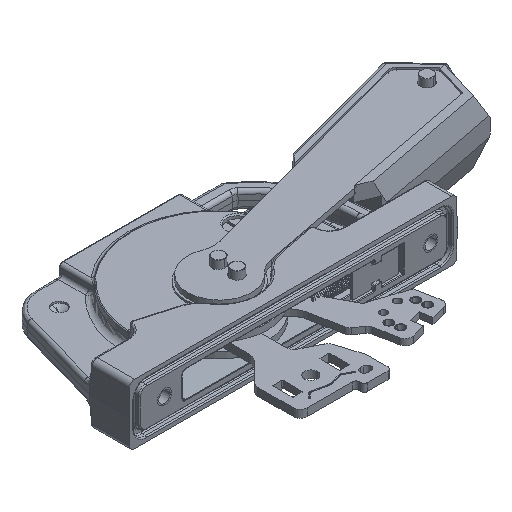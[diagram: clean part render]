
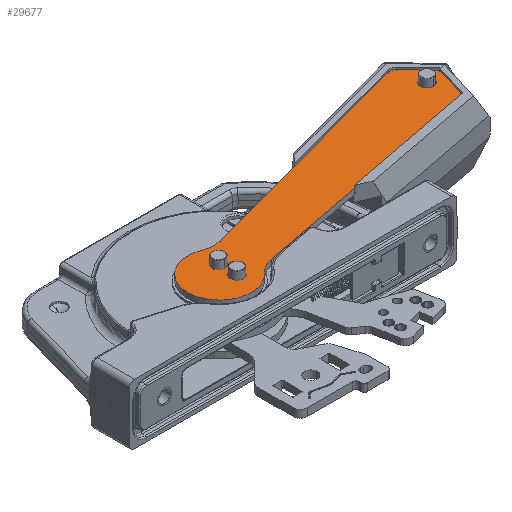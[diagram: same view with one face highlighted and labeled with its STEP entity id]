
A CAD part, isometric view. The second image highlights one B-rep face of the part: STEP entity #29677.
In plain terms, the highlighted planar face has unit normal (0, 0, 1) as drawn and (0, 1, 0) by its records, which use the part's own axes.
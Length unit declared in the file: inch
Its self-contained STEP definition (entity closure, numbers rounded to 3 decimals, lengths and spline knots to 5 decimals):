
#29274=CARTESIAN_POINT('',(4.875,0.049,0.));
#29275=DIRECTION('',(0.,-1.,0.));
#29276=DIRECTION('',(1.,0.,0.));
#29277=AXIS2_PLACEMENT_3D('',#29274,#29275,#29276);
#29282=CARTESIAN_POINT('',(4.875,0.049,0.));
#29283=DIRECTION('',(0.,-1.,0.));
#29284=DIRECTION('',(-1.,0.,0.));
#29285=AXIS2_PLACEMENT_3D('',#29282,#29283,#29284);
#29290=CARTESIAN_POINT('',(5.04456,0.049,0.));
#29291=DIRECTION('',(0.,1.,0.));
#29292=DIRECTION('',(0.866,0.,0.5));
#29293=AXIS2_PLACEMENT_3D('',#29290,#29291,#29292);
#29298=DIRECTION('',(0.5,0.,-0.866));
#29299=VECTOR('',#29298,0.47468);
#29300=CARTESIAN_POINT('',(4.91115,0.049,0.47108));
#29301=LINE('',#29300,#29299);
#29305=CARTESIAN_POINT('',(4.80722,0.049,0.41108));
#29306=DIRECTION('',(0.,1.,0.));
#29307=DIRECTION('',(-0.037,0.,0.999));
#29308=AXIS2_PLACEMENT_3D('',#29305,#29306,#29307);
#29313=DIRECTION('',(0.999,0.,0.037));
#29314=VECTOR('',#29313,4.18822);
#29315=CARTESIAN_POINT('',(0.61744,0.049,0.375));
#29316=LINE('',#29315,#29314);
#29320=CARTESIAN_POINT('',(0.59882,0.049,0.87465));
#29321=DIRECTION('',(0.,-1.,0.));
#29322=DIRECTION('',(-0.565,0.,-0.825));
#29323=AXIS2_PLACEMENT_3D('',#29320,#29321,#29322);
#29328=CARTESIAN_POINT('',(0.,0.049,0.));
#29329=DIRECTION('',(0.,1.,0.));
#29330=DIRECTION('',(0.565,0.,-0.825));
#29331=AXIS2_PLACEMENT_3D('',#29328,#29329,#29330);
#29336=CARTESIAN_POINT('',(0.59882,0.049,-0.87465));
#29337=DIRECTION('',(0.,-1.,0.));
#29338=DIRECTION('',(0.037,0.,0.999));
#29339=AXIS2_PLACEMENT_3D('',#29336,#29337,#29338);
#29344=DIRECTION('',(-0.999,0.,0.037));
#29345=VECTOR('',#29344,4.18822);
#29346=CARTESIAN_POINT('',(4.80275,0.049,-0.531));
#29347=LINE('',#29346,#29345);
#29351=CARTESIAN_POINT('',(4.80722,0.049,-0.41108));
#29352=DIRECTION('',(0.,1.,0.));
#29353=DIRECTION('',(0.866,0.,-0.5));
#29354=AXIS2_PLACEMENT_3D('',#29351,#29352,#29353);
#29359=DIRECTION('',(-0.5,0.,-0.866));
#29360=VECTOR('',#29359,0.47468);
#29361=CARTESIAN_POINT('',(5.14849,0.049,-0.06));
#29362=LINE('',#29361,#29360);
#29366=CARTESIAN_POINT('',(0.17637,0.049,-0.12814));
#29367=DIRECTION('',(0.,1.,0.));
#29368=DIRECTION('',(1.,0.,0.));
#29369=AXIS2_PLACEMENT_3D('',#29366,#29367,#29368);
#29374=CARTESIAN_POINT('',(0.17637,0.049,-0.12814));
#29375=DIRECTION('',(0.,1.,0.));
#29376=DIRECTION('',(-1.,0.,0.));
#29377=AXIS2_PLACEMENT_3D('',#29374,#29375,#29376);
#29382=CARTESIAN_POINT('',(0.10234,0.049,0.19248));
#29383=DIRECTION('',(0.,1.,0.));
#29384=DIRECTION('',(1.,0.,0.));
#29385=AXIS2_PLACEMENT_3D('',#29382,#29383,#29384);
#29390=CARTESIAN_POINT('',(0.10234,0.049,0.19248));
#29391=DIRECTION('',(0.,1.,0.));
#29392=DIRECTION('',(-1.,0.,0.));
#29393=AXIS2_PLACEMENT_3D('',#29390,#29391,#29392);
#29504=CARTESIAN_POINT('',(0.31636,0.049,-0.46208));
#29505=CARTESIAN_POINT('',(0.31636,0.049,0.46208));
#29506=VERTEX_POINT('',#29504);
#29507=VERTEX_POINT('',#29505);
#29508=CARTESIAN_POINT('',(4.80275,0.049,-0.531));
#29509=CARTESIAN_POINT('',(0.61744,0.049,-0.375));
#29510=VERTEX_POINT('',#29508);
#29511=VERTEX_POINT('',#29509);
#29524=CARTESIAN_POINT('',(4.991,0.049,0.));
#29525=CARTESIAN_POINT('',(4.759,0.049,0.));
#29526=VERTEX_POINT('',#29524);
#29527=VERTEX_POINT('',#29525);
#29528=CARTESIAN_POINT('',(0.61744,0.049,0.375));
#29529=VERTEX_POINT('',#29528);
#29530=CARTESIAN_POINT('',(4.80275,0.049,0.531));
#29531=VERTEX_POINT('',#29530);
#29532=CARTESIAN_POINT('',(4.91115,0.049,0.47108));
#29533=VERTEX_POINT('',#29532);
#29534=CARTESIAN_POINT('',(4.91115,0.049,-0.47108));
#29535=VERTEX_POINT('',#29534);
#29540=CARTESIAN_POINT('',(5.14849,0.049,0.06));
#29541=VERTEX_POINT('',#29540);
#29542=CARTESIAN_POINT('',(5.14849,0.049,-0.06));
#29543=VERTEX_POINT('',#29542);
#29552=CARTESIAN_POINT('',(0.29237,0.049,-0.12814));
#29553=CARTESIAN_POINT('',(0.06037,0.049,-0.12814));
#29554=VERTEX_POINT('',#29552);
#29555=VERTEX_POINT('',#29553);
#29556=CARTESIAN_POINT('',(0.21834,0.049,0.19248));
#29557=CARTESIAN_POINT('',(-0.01366,0.049,0.19248));
#29558=VERTEX_POINT('',#29556);
#29559=VERTEX_POINT('',#29557);
#29634=CARTESIAN_POINT('',(0.,0.049,0.));
#29635=DIRECTION('',(0.,1.,0.));
#29636=DIRECTION('',(1.,0.,0.));
#29637=AXIS2_PLACEMENT_3D('',#29634,#29635,#29636);
#29638=PLANE('',#29637);
#29640=ORIENTED_EDGE('',*,*,#29639,.F.);
#29642=ORIENTED_EDGE('',*,*,#29641,.F.);
#29644=ORIENTED_EDGE('',*,*,#29643,.F.);
#29646=ORIENTED_EDGE('',*,*,#29645,.F.);
#29648=ORIENTED_EDGE('',*,*,#29647,.F.);
#29650=ORIENTED_EDGE('',*,*,#29649,.F.);
#29652=ORIENTED_EDGE('',*,*,#29651,.F.);
#29654=ORIENTED_EDGE('',*,*,#29653,.F.);
#29656=ORIENTED_EDGE('',*,*,#29655,.F.);
#29658=ORIENTED_EDGE('',*,*,#29657,.F.);
#29659=EDGE_LOOP('',(#29640,#29642,#29644,#29646,#29648,#29650,#29652,#29654,
#29656,#29658));
#29660=FACE_OUTER_BOUND('',#29659,.F.);
#29661=ORIENTED_EDGE('',*,*,#29614,.F.);
#29662=ORIENTED_EDGE('',*,*,#29628,.F.);
#29663=EDGE_LOOP('',(#29661,#29662));
#29664=FACE_BOUND('',#29663,.F.);
#29666=ORIENTED_EDGE('',*,*,#29665,.T.);
#29668=ORIENTED_EDGE('',*,*,#29667,.T.);
#29669=EDGE_LOOP('',(#29666,#29668));
#29670=FACE_BOUND('',#29669,.F.);
#29672=ORIENTED_EDGE('',*,*,#29671,.T.);
#29674=ORIENTED_EDGE('',*,*,#29673,.T.);
#29675=EDGE_LOOP('',(#29672,#29674));
#29676=FACE_BOUND('',#29675,.F.);
#29278=CIRCLE('',#29277,0.116);
#29286=CIRCLE('',#29285,0.116);
#29294=CIRCLE('',#29293,0.12);
#29309=CIRCLE('',#29308,0.12);
#29324=CIRCLE('',#29323,0.5);
#29332=CIRCLE('',#29331,0.56);
#29340=CIRCLE('',#29339,0.5);
#29355=CIRCLE('',#29354,0.12);
#29370=CIRCLE('',#29369,0.116);
#29378=CIRCLE('',#29377,0.116);
#29386=CIRCLE('',#29385,0.116);
#29394=CIRCLE('',#29393,0.116);
#29614=EDGE_CURVE('',#29526,#29527,#29278,.T.);
#29628=EDGE_CURVE('',#29527,#29526,#29286,.T.);
#29639=EDGE_CURVE('',#29541,#29543,#29294,.T.);
#29641=EDGE_CURVE('',#29533,#29541,#29301,.T.);
#29643=EDGE_CURVE('',#29531,#29533,#29309,.T.);
#29645=EDGE_CURVE('',#29529,#29531,#29316,.T.);
#29647=EDGE_CURVE('',#29507,#29529,#29324,.T.);
#29649=EDGE_CURVE('',#29506,#29507,#29332,.T.);
#29651=EDGE_CURVE('',#29511,#29506,#29340,.T.);
#29653=EDGE_CURVE('',#29510,#29511,#29347,.T.);
#29655=EDGE_CURVE('',#29535,#29510,#29355,.T.);
#29657=EDGE_CURVE('',#29543,#29535,#29362,.T.);
#29665=EDGE_CURVE('',#29554,#29555,#29370,.T.);
#29667=EDGE_CURVE('',#29555,#29554,#29378,.T.);
#29671=EDGE_CURVE('',#29558,#29559,#29386,.T.);
#29673=EDGE_CURVE('',#29559,#29558,#29394,.T.);
#29677=ADVANCED_FACE('',(#29660,#29664,#29670,#29676),#29638,.T.);
